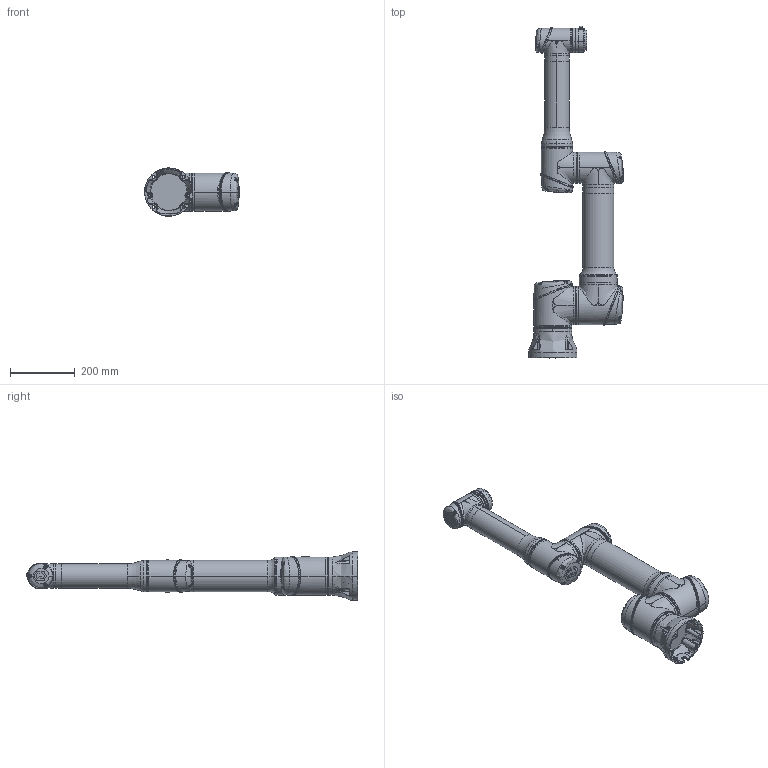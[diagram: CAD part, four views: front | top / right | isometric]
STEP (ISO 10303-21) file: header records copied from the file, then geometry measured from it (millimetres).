
FILE_DESCRIPTION (( 'STEP AP203' ), '1' );
FILE_NAME ('CS_掛极CS58R_V1.1.STEP', '2023-10-30T07:49:20', ( '' ), ( '' ), 'SwSTEP 2.0', 'SolidWorks 2017', '' );
FILE_SCHEMA (( 'CONFIG_CONTROL_DESIGN' ));
Length unit declared in the file: millimetre
Products named in the file (7): CS58R_Link4; CS58R_Link2; CS58R_Link3; CS58R_Link1; CS58R_Flange; CS58R_Base; CS_掛极CS58R_V1.1
Assembly tree (6 placements, depth 2):
  CS_掛极CS58R_V1.1
    CS58R_Base
    CS58R_Link1
    CS58R_Link2
    CS58R_Link3
    CS58R_Link4
    CS58R_Flange
Bounding box: 293.79 x 1028.72 x 149.7 mm (x, y, z)
Volume: 8902548.5 mm3; surface area: 760346.8 mm2
Topology: 13 solids, 79 shells, 5225 faces, 12880 edges, 7703 vertices
Faces by surface type: bspline 2895, plane 962, cylinder 715, cone 446, torus 120, sphere 87
Entity records: 620923 total; most frequent: CARTESIAN_POINT 523358, ORIENTED_EDGE 25161, DIRECTION 12643, EDGE_CURVE 12582, VERTEX_POINT 7687, B_SPLINE_CURVE_WITH_KNOTS 7223, EDGE_LOOP 5498, FACE_OUTER_BOUND 5224
